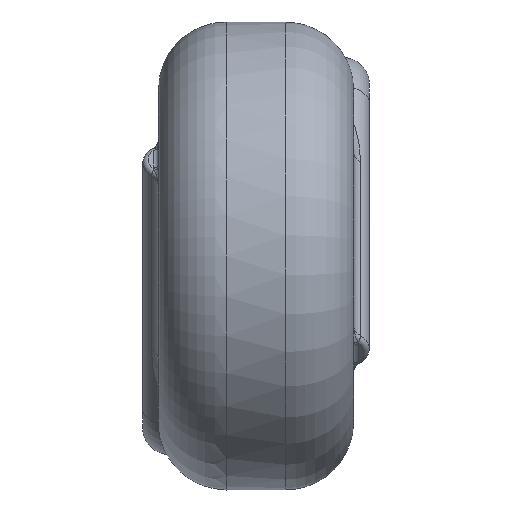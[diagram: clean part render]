
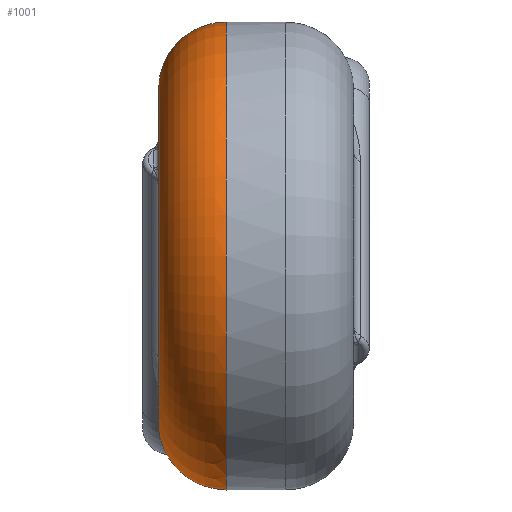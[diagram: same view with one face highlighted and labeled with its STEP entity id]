
A CAD part, left-side view. The second image highlights one B-rep face of the part: STEP entity #1001.
In plain terms, the highlighted toroidal (fillet/blend) face has major radius 6.15 mm and minor radius 2.5 mm.
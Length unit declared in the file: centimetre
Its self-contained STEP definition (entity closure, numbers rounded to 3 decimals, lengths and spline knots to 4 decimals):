
#746=CARTESIAN_POINT('',(0.4807,0.64,-0.3836));
#747=VERTEX_POINT('',#746);
#875=CARTESIAN_POINT('',(0.6038,0.64,-0.1171));
#876=VERTEX_POINT('',#875);
#884=CARTESIAN_POINT('',(0.6038,0.64,-0.1171));
#885=CARTESIAN_POINT('',(0.6173,0.64,-0.1387));
#886=CARTESIAN_POINT('',(0.6474,0.6363,-0.1778));
#887=CARTESIAN_POINT('',(0.6984,0.6142,-0.2199));
#888=CARTESIAN_POINT('',(0.7434,0.5762,-0.2555));
#889=CARTESIAN_POINT('',(0.7734,0.5268,-0.2946));
#890=CARTESIAN_POINT('',(0.7809,0.4737,-0.3435));
#891=CARTESIAN_POINT('',(0.7645,0.4334,-0.3994));
#892=CARTESIAN_POINT('',(0.7286,0.4087,-0.4675));
#893=CARTESIAN_POINT('',(0.6794,0.4131,-0.5368));
#894=CARTESIAN_POINT('',(0.6336,0.4508,-0.5801));
#895=CARTESIAN_POINT('',(0.6052,0.488,-0.5908));
#896=CARTESIAN_POINT('',(0.5811,0.5271,-0.5873));
#897=CARTESIAN_POINT('',(0.5589,0.5721,-0.5593));
#898=CARTESIAN_POINT('',(0.5382,0.6105,-0.5055));
#899=CARTESIAN_POINT('',(0.5159,0.6342,-0.443));
#900=CARTESIAN_POINT('',(0.4942,0.64,-0.4019));
#901=CARTESIAN_POINT('',(0.4807,0.64,-0.3836));
#902=B_SPLINE_CURVE_WITH_KNOTS('',3,(#884,#885,#886,#887,#888,#889,#890,#891,#892,#893,#894,#895,#896,#897,#898,#899,#900,#901),.UNSPECIFIED.,.F.,.U.,(4,1,1,1,1,1,1,1,1,1,1,1,1,1,1,4),(-1.2469,-1.1578,-1.0688,-0.9797,-0.8907,-0.8016,-0.7125,-0.6457,-0.5344,-0.4453,-0.4008,-0.3563,-0.2672,-0.1781,-0.0891,0.0),.UNSPECIFIED.);
#903=EDGE_CURVE('',#876,#747,#902,.T.);
#975=CARTESIAN_POINT('',(0.0,0.39,0.0));
#976=DIRECTION('',(0.0,1.0,0.0));
#977=DIRECTION('',(1.0,0.0,0.0));
#978=AXIS2_PLACEMENT_3D('',#975,#976,#977);
#979=TOROIDAL_SURFACE('',#978,0.615,0.25);
#980=CARTESIAN_POINT('',(0.865,0.39,0.));
#981=VERTEX_POINT('',#980);
#982=CARTESIAN_POINT('',(0.0,0.39,0.0));
#983=DIRECTION('',(0.0,1.0,0.0));
#984=DIRECTION('',(-1.0,0.0,0.0));
#985=AXIS2_PLACEMENT_3D('',#982,#983,#984);
#986=CIRCLE('',#985,0.865);
#987=EDGE_CURVE('',#981,#981,#986,.T.);
#988=ORIENTED_EDGE('',*,*,#987,.T.);
#989=EDGE_LOOP('',(#988));
#990=FACE_OUTER_BOUND('',#989,.T.);
#991=ORIENTED_EDGE('',*,*,#903,.F.);
#992=CARTESIAN_POINT('',(0.0,0.64,0.0));
#993=DIRECTION('',(0.0,-1.0,0.0));
#994=DIRECTION('',(-1.0,0.0,0.0));
#995=AXIS2_PLACEMENT_3D('',#992,#993,#994);
#996=CIRCLE('',#995,0.615);
#997=EDGE_CURVE('',#876,#747,#996,.T.);
#998=ORIENTED_EDGE('',*,*,#997,.T.);
#999=EDGE_LOOP('',(#991,#998));
#1000=FACE_BOUND('',#999,.T.);
#1001=ADVANCED_FACE('',(#990,#1000),#979,.T.);
